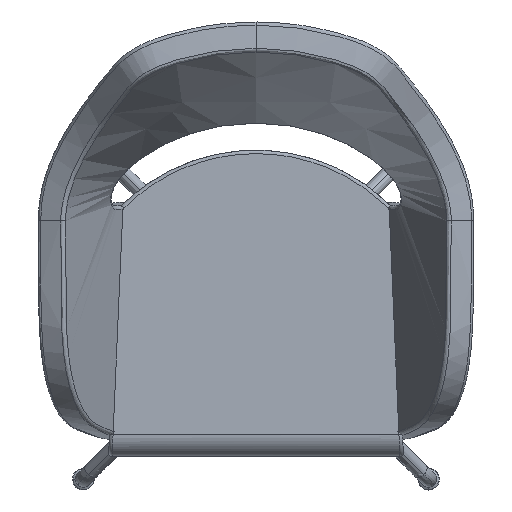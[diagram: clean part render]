
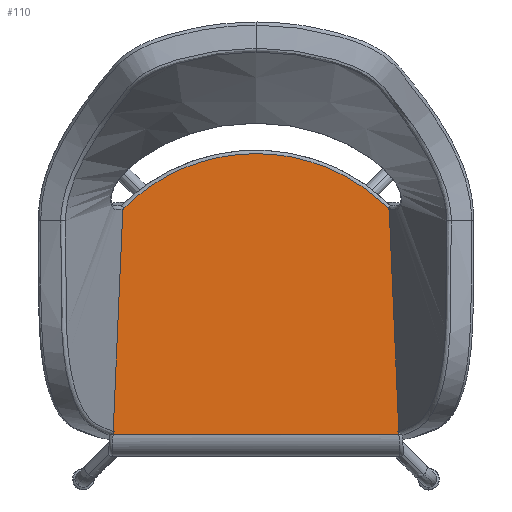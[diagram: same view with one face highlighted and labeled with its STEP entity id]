
A CAD part, top view. The second image highlights one B-rep face of the part: STEP entity #110.
In plain terms, the highlighted planar face has unit normal (0, 0.026, 1).
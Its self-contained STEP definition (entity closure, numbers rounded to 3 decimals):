
#40=PLANE('',#2375);
#110=ADVANCED_FACE('',(#268),#40,.T.);
#268=FACE_OUTER_BOUND('',#427,.T.);
#427=EDGE_LOOP('',(#649,#650,#651,#652,#653,#654));
#649=ORIENTED_EDGE('',*,*,#1278,.T.);
#650=ORIENTED_EDGE('',*,*,#1308,.T.);
#651=ORIENTED_EDGE('',*,*,#1301,.T.);
#652=ORIENTED_EDGE('',*,*,#1304,.T.);
#653=ORIENTED_EDGE('',*,*,#1295,.T.);
#654=ORIENTED_EDGE('',*,*,#1257,.F.);
#1257=EDGE_CURVE('',#1913,#1916,#2240,.T.);
#1278=EDGE_CURVE('',#1913,#1914,#1614,.T.);
#1295=EDGE_CURVE('',#1915,#1916,#1631,.T.);
#1301=EDGE_CURVE('',#1917,#1918,#1637,.T.);
#1304=EDGE_CURVE('',#1918,#1915,#1640,.T.);
#1308=EDGE_CURVE('',#1914,#1917,#1644,.T.);
#1614=(
BOUNDED_CURVE()
B_SPLINE_CURVE(1,(#3133,#3134),.UNSPECIFIED.,.F.,.F.)
B_SPLINE_CURVE_WITH_KNOTS((2,2),(0.217,311.552),
 .UNSPECIFIED.)
CURVE()
GEOMETRIC_REPRESENTATION_ITEM()
RATIONAL_B_SPLINE_CURVE((1.,1.))
REPRESENTATION_ITEM('')
);
#1631=(
BOUNDED_CURVE()
B_SPLINE_CURVE(1,(#3212,#3213),.UNSPECIFIED.,.F.,.F.)
B_SPLINE_CURVE_WITH_KNOTS((2,2),(0.,311.335),.UNSPECIFIED.)
CURVE()
GEOMETRIC_REPRESENTATION_ITEM()
RATIONAL_B_SPLINE_CURVE((1.,1.))
REPRESENTATION_ITEM('')
);
#1637=(
BOUNDED_CURVE()
B_SPLINE_CURVE(3,(#3235,#3236,#3237,#3238,#3239,#3240,#3241,#3242,#3243),
 .UNSPECIFIED.,.F.,.F.)
B_SPLINE_CURVE_WITH_KNOTS((4,1,1,1,1,1,4),(0.,87.476,
145.46,203.877,262.294,320.278,407.755),
 .UNSPECIFIED.)
CURVE()
GEOMETRIC_REPRESENTATION_ITEM()
RATIONAL_B_SPLINE_CURVE((1.,1.,1.,1.,1.,1.,
1.,1.,1.))
REPRESENTATION_ITEM('')
);
#1640=(
BOUNDED_CURVE()
B_SPLINE_CURVE(3,(#3251,#3252,#3253,#3254),.UNSPECIFIED.,.F.,.F.)
B_SPLINE_CURVE_WITH_KNOTS((4,4),(0.,3.725),.UNSPECIFIED.)
CURVE()
GEOMETRIC_REPRESENTATION_ITEM()
RATIONAL_B_SPLINE_CURVE((1.,1.,1.,1.))
REPRESENTATION_ITEM('')
);
#1644=(
BOUNDED_CURVE()
B_SPLINE_CURVE(3,(#3267,#3268,#3269,#3270),.UNSPECIFIED.,.F.,.F.)
B_SPLINE_CURVE_WITH_KNOTS((4,4),(0.,3.725),
 .UNSPECIFIED.)
CURVE()
GEOMETRIC_REPRESENTATION_ITEM()
RATIONAL_B_SPLINE_CURVE((1.,1.,1.,1.))
REPRESENTATION_ITEM('')
);
#1913=VERTEX_POINT('',#3033);
#1914=VERTEX_POINT('',#3034);
#1915=VERTEX_POINT('',#3035);
#1916=VERTEX_POINT('',#3036);
#1917=VERTEX_POINT('',#3037);
#1918=VERTEX_POINT('',#3038);
#2240=B_SPLINE_CURVE_WITH_KNOTS('',1,(#3063,#3064),.UNSPECIFIED.,.F.,.F.,
(2,2),(6.309,403.691),.UNSPECIFIED.);
#2375=AXIS2_PLACEMENT_3D('',#2737,#2400,$);
#2400=DIRECTION('',(0.,0.026,1.));
#2737=CARTESIAN_POINT('',(256.25,269.829,468.486));
#3033=CARTESIAN_POINT('',(198.691,-178.306,480.24));
#3034=CARTESIAN_POINT('',(185.173,132.628,472.085));
#3035=CARTESIAN_POINT('',(-185.173,132.628,472.085));
#3036=CARTESIAN_POINT('',(-198.691,-178.306,480.24));
#3037=CARTESIAN_POINT('',(183.703,135.957,471.997));
#3038=CARTESIAN_POINT('',(-183.703,135.957,471.997));
#3063=CARTESIAN_POINT('',(198.691,-178.306,480.24));
#3064=CARTESIAN_POINT('',(-198.691,-178.306,480.24));
#3133=CARTESIAN_POINT('',(198.691,-178.306,480.24));
#3134=CARTESIAN_POINT('',(185.173,132.628,472.085));
#3212=CARTESIAN_POINT('',(-185.173,132.628,472.085));
#3213=CARTESIAN_POINT('',(-198.691,-178.306,480.24));
#3235=CARTESIAN_POINT('',(183.703,135.957,471.997));
#3236=CARTESIAN_POINT('',(163.031,156.517,471.458));
#3237=CARTESIAN_POINT('',(122.845,184.84,470.715));
#3238=CARTESIAN_POINT('',(58.271,207.337,470.125));
#3239=CARTESIAN_POINT('',(0.,213.901,469.953));
#3240=CARTESIAN_POINT('',(-58.271,207.337,470.125));
#3241=CARTESIAN_POINT('',(-122.845,184.84,470.715));
#3242=CARTESIAN_POINT('',(-163.031,156.517,471.458));
#3243=CARTESIAN_POINT('',(-183.703,135.957,471.997));
#3251=CARTESIAN_POINT('',(-183.703,135.957,471.997));
#3252=CARTESIAN_POINT('',(-184.587,135.083,472.02));
#3253=CARTESIAN_POINT('',(-185.123,133.87,472.052));
#3254=CARTESIAN_POINT('',(-185.173,132.628,472.085));
#3267=CARTESIAN_POINT('',(185.173,132.628,472.085));
#3268=CARTESIAN_POINT('',(185.123,133.87,472.052));
#3269=CARTESIAN_POINT('',(184.587,135.083,472.02));
#3270=CARTESIAN_POINT('',(183.703,135.957,471.997));
